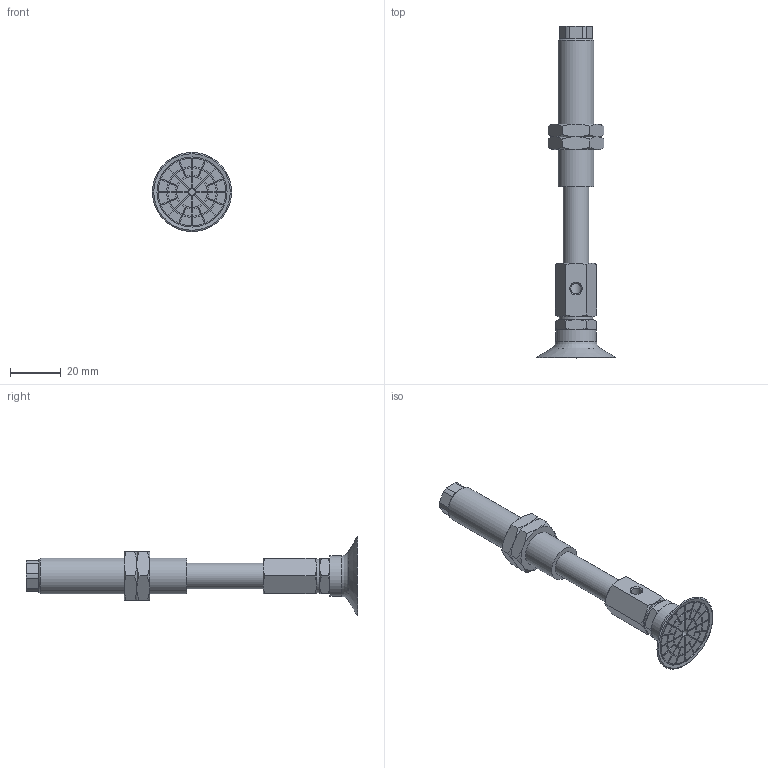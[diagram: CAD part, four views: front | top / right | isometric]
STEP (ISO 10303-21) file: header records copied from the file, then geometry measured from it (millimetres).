
FILE_DESCRIPTION(('STEP AP203'),'1');
FILE_NAME('.stp','2025-02-28T07:04:10',(' '),(' '),'Spatial InterOp 3D',' ',' ');
FILE_SCHEMA(('CONFIG_CONTROL_DESIGN'));
Length unit declared in the file: millimetre
Products named in the file (7): BNABPAYS-30B-30-※; NAPAYS-30B-30--M; NAPAYS-30B-30--F; Nut-25-S; CONNECTOR-30B-30-PA; TN-PA-30B-M6; BPAG-30B-※_3D
Assembly tree (7 placements, depth 2):
  BNABPAYS-30B-30-※
    NAPAYS-30B-30--M
    NAPAYS-30B-30--F
    Nut-25-S  x2
    CONNECTOR-30B-30-PA
    TN-PA-30B-M6
    BPAG-30B-※_3D
Bounding box: 31.04 x 130.2 x 31.04 mm (x, y, z)
Volume: 20280.8 mm3; surface area: 15251.5 mm2
Topology: 7 solids, 7 shells, 364 faces, 843 edges, 538 vertices
Faces by surface type: plane 195, cylinder 98, cone 65, torus 6
Full cylindrical faces by diameter (mm): 2.5 x1, 3 x2, 4.134 x2, 4.917 x1, 5 x1, 6 x3, 10 x4, 12.917 x2, 13 x1, 14 x1, 16 x1, 27.5 x1
Entity records: 10122 total; most frequent: CARTESIAN_POINT 2044, DIRECTION 1642, ORIENTED_EDGE 1500, EDGE_CURVE 750, AXIS2_PLACEMENT_3D 618, VERTEX_POINT 504, EDGE_LOOP 436, LINE 406
